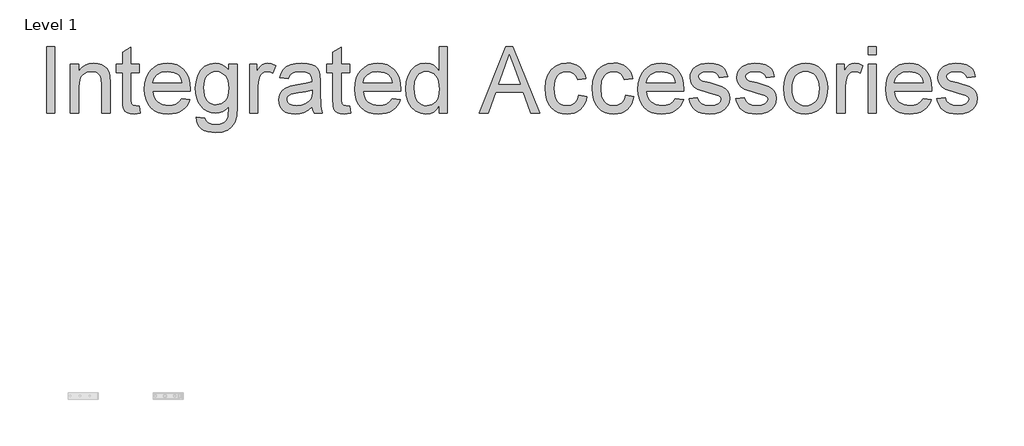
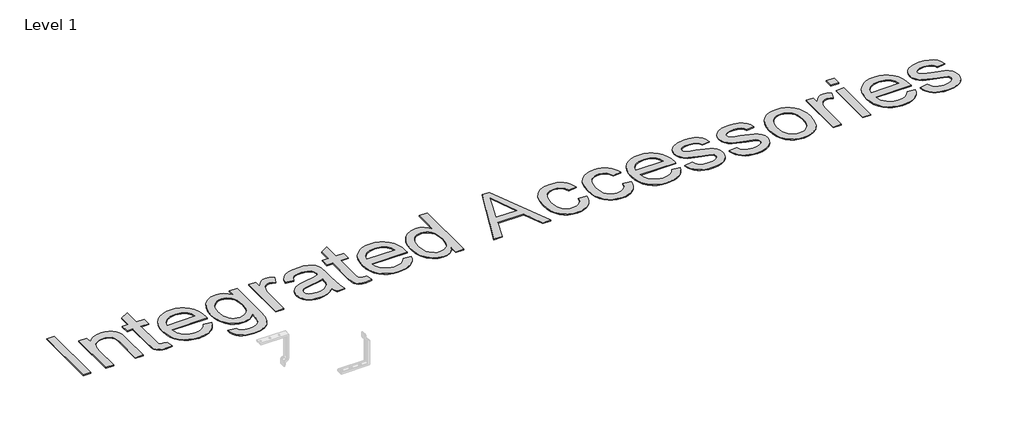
# One storey, part 3 of 6: 1 proxy.
"""IFC4 building model written with IfcOpenShell, lengths in millimetres."""

from ifc_helpers import new_model, si_unit, origin, origin_with_axes, place, context, project, spatial, polyline, outline, extrude, element, save

model = new_model("IFC4")

# Units and contexts
model_context = context("Model", 3, world=origin())
ifc_project = project(units=[si_unit("LENGTHUNIT", "METRE", prefix="MILLI")], contexts=[model_context])

# Site, building, storey
site = spatial("IfcSite", under=ifc_project)
building = spatial("IfcBuilding", under=site)
storey = spatial("IfcBuildingStorey", under=building, Name="Level 1", Elevation=0.0)

# Proxy
placement = place(None, origin())
element("IfcBuildingElementProxy", 1, Name="400mm Arial", ObjectType="400mm Arial", at=placement, inside=storey, context=model_context, shape_type="SweptSolid", body=[
    extrude(outline(polyline([(-11437.7764845, 9851.3054836), (-11437.7764845, 10243.0630593), (-11388.8067875, 10243.0630593), (-11388.8067875, 9851.3054836), (-11437.7764845, 9851.3054836)])), origin_with_axes(), (0.0, 0.0, 1.0), 5.0),
    extrude(outline(polyline([(-11296.9886057, 9851.3054836), (-11296.9886057, 10139.0024533), (-11248.0189088, 10139.0024533), (-11248.0189088, 10098.8319987), (-11231.006243, 10119.0846029), (-11210.5743065, 10133.5507487), (-11186.7230991, 10142.2304362), (-11159.4526209, 10145.1236654), (-11135.3144817, 10142.7923444), (-11113.2087762, 10135.7983813), (-11094.7734069, 10125.0145271), (-11081.6462762, 10111.3135328), (-11072.7394343, 10094.7312648), (-11066.9649315, 10075.3035896), (-11064.3825451, 10027.9598396), (-11064.3825451, 9851.3054836), (-11113.3522421, 9851.3054836), (-11113.3522421, 10021.3604078), (-11114.7629902, 10046.6821408), (-11118.9952345, 10064.6871124), (-11126.8021711, 10077.5870887), (-11138.9369959, 10087.5938358), (-11154.4910915, 10094.0139353), (-11172.5558406, 10096.1539684), (-11201.2370669, 10091.3478605), (-11225.6860489, 10076.9295366), (-11235.4566751, 10065.1593543), (-11242.4356938, 10049.0732393), (-11246.623105, 10028.6711914), (-11248.0189088, 10003.9532108), (-11248.0189088, 9851.3054836), (-11296.9886057, 9851.3054836)])), origin_with_axes(), (0.0, 0.0, 1.0), 5.0),
    extrude(outline(polyline([(-10892.9886057, 9892.1454457), (-10886.8673936, 9849.8708245), (-10923.4990224, 9845.1842715), (-10947.0035205, 9847.2167052), (-10964.5302724, 9853.3140063), (-10976.9161625, 9862.7110233), (-10984.9980754, 9874.6426048), (-10989.4455186, 9895.1343188), (-10990.9279997, 9930.2117336), (-10990.9279997, 10090.0327563), (-11027.6552724, 10090.0327563), (-11027.6552724, 10139.0024533), (-10990.9279997, 10139.0024533), (-10990.9279997, 10208.918173), (-10941.9583027, 10237.7069987), (-10941.9583027, 10139.0024533), (-10892.9886057, 10139.0024533), (-10892.9886057, 10090.0327563), (-10941.9583027, 10090.0327563), (-10941.9583027, 9931.6463927), (-10939.3759163, 9906.3963927), (-10931.0070716, 9897.4536843), (-10914.3172042, 9894.1539684), (-10892.9886057, 9892.1454457)])), origin_with_axes(), (0.0, 0.0, 1.0), 5.0),
    extrude(outline(polyline([(-10642.5927724, 9937.0024533), (-10594.5795148, 9930.8812411), (-10601.9411093, 9911.6508316), (-10611.8791124, 9894.7039211), (-10624.3935241, 9880.0405096), (-10639.4843444, 9867.6605972), (-10656.9961519, 9857.8272047), (-10676.7735252, 9850.8033529), (-10723.1249694, 9845.1842715), (-10753.5098534, 9847.6082475), (-10780.583066, 9854.8801758), (-10804.3446071, 9867.0000563), (-10824.7944769, 9883.9678889), (-10841.2392568, 9905.3114317), (-10852.9855281, 9930.5584429), (-10860.0332909, 9959.7089223), (-10862.3825451, 9992.7628699), (-10860.0093799, 10026.937645), (-10852.8898841, 10057.0595082), (-10841.0240579, 10083.1284594), (-10824.4119012, 10105.1444987), (-10804.0158311, 10122.6353841), (-10780.7982648, 10135.1288737), (-10754.7592023, 10142.6249675), (-10725.8986436, 10145.1236654), (-10697.9676244, 10142.6309452), (-10672.7086578, 10135.1527847), (-10650.1217438, 10122.6891839), (-10630.2068822, 10105.2401427), (-10613.9504014, 10083.2719253), (-10602.3386294, 10057.2507961), (-10595.3715662, 10027.1767549), (-10593.0492118, 9993.0498018), (-10593.3361436, 9979.8509381), (-10813.4128482, 9979.8509381), (-10810.5764076, 9960.3096858), (-10804.936404, 9943.1953983), (-10796.4928375, 9928.5080759), (-10785.245708, 9916.2477184), (-10756.8275025, 9899.6774059), (-10722.16853, 9894.1539684), (-10696.1055565, 9896.7124438), (-10674.1552724, 9904.3878699), (-10656.3176777, 9917.6584665), (-10642.5927724, 9937.0024533)]), holes=[polyline([(-10813.4128482, 10028.8206351), (-10642.0189088, 10028.8206351), (-10648.6422516, 10054.6923207), (-10661.6259163, 10073.199423), (-10674.9802014, 10083.2420366), (-10690.1756322, 10090.4153321), (-10726.0899315, 10096.1539684), (-10759.0990461, 10091.5750148), (-10786.3934353, 10077.838154), (-10805.3668018, 10056.4258671), (-10813.4128482, 10028.8206351)])]), origin_with_axes(), (0.0, 0.0, 1.0), 5.0),
    extrude(outline(polyline([(-10556.3219391, 9826.8206351), (-10507.3522421, 9820.699423), (-10501.9483595, 9805.3963927), (-10491.4753482, 9794.8755593), (-10470.8879902, 9786.6980025), (-10443.9403103, 9783.9721502), (-10415.1993065, 9787.0566673), (-10393.822886, 9796.3102184), (-10378.9980754, 9811.135029), (-10369.9119012, 9830.9333245), (-10366.5643633, 9888.0327563), (-10382.8596995, 9871.9645745), (-10401.0440035, 9860.4873018), (-10421.1172752, 9853.6009381), (-10443.0795148, 9851.3054836), (-10469.9285619, 9853.9775361), (-10493.5675593, 9861.9936938), (-10513.996507, 9875.3539566), (-10531.215405, 9894.0583245), (-10544.8775439, 9916.4987838), (-10554.6362146, 9941.0673207), (-10560.491417, 9967.7639353), (-10562.4431512, 9996.5886275), (-10558.9401919, 10036.125441), (-10548.4313141, 10072.4820934), (-10531.2871379, 10103.2913974), (-10507.8782838, 10126.1861654), (-10479.0057696, 10140.3892904), (-10445.4706133, 10145.1236654), (-10422.5698676, 10142.4456351), (-10401.785244, 10134.4115442), (-10383.1167426, 10121.0213927), (-10366.5643633, 10102.2751805), (-10366.5643633, 10139.0024533), (-10317.5946663, 10139.0024533), (-10317.5946663, 9890.6151427), (-10320.9422042, 9833.2646455), (-10330.9848179, 9795.4972449), (-10348.2844154, 9770.4504883), (-10373.402905, 9751.261923), (-10405.7903339, 9739.0673207), (-10444.8967497, 9735.0024533), (-10490.4591313, 9740.7291341), (-10509.6088413, 9747.8874852), (-10526.3375641, 9757.9091768), (-10539.8502594, 9770.8061642), (-10549.351887, 9786.5904031), (-10554.8424469, 9805.2618934), (-10556.3219391, 9826.8206351)]), holes=[polyline([(-10513.4734542, 9999.9361654), (-10508.248904, 9955.0193804), (-10501.7182163, 9937.8243934), (-10492.5752535, 9924.1383434), (-10481.4596344, 9913.6982097), (-10469.0109779, 9906.2409713), (-10455.229284, 9901.7666282), (-10440.1145527, 9900.2751805), (-10411.4333264, 9906.2051048), (-10387.7494959, 9923.9948775), (-10378.4810004, 9937.5464282), (-10371.8606464, 9954.4813832), (-10366.5643633, 9998.5015063), (-10372.0160679, 10040.9554599), (-10378.8306985, 10057.7260269), (-10388.3711815, 10071.525654), (-10412.4017213, 10089.9968898), (-10426.0847823, 10094.6146988), (-10440.8797042, 10096.1539684), (-10455.4265496, 10094.6386098), (-10468.843601, 10090.0925338), (-10492.2883216, 10071.9082298), (-10501.5568171, 10058.3178238), (-10508.1771711, 10041.7923444), (-10513.4734542, 9999.9361654)])]), origin_with_axes(), (0.0, 0.0, 1.0), 5.0),
    extrude(outline(polyline([(-10244.1401209, 9851.3054836), (-10244.1401209, 10139.0024533), (-10201.291636, 10139.0024533), (-10201.291636, 10096.4409002), (-10185.4625641, 10121.1170366), (-10170.8768633, 10135.6549154), (-10156.2433406, 10142.7564779), (-10140.2708027, 10145.1236654), (-10115.8815982, 10141.3457298), (-10091.1098179, 10130.011923), (-10107.4649315, 10086.1113548), (-10124.6808406, 10093.643315), (-10141.8967497, 10096.1539684), (-10156.5183169, 10093.738959), (-10169.5856701, 10086.4939305), (-10180.1423699, 10074.9688358), (-10187.2319769, 10059.7136275), (-10193.1858122, 10032.3594608), (-10195.1704239, 10002.5185518), (-10195.1704239, 9851.3054836), (-10244.1401209, 9851.3054836)])), origin_with_axes(), (0.0, 0.0, 1.0), 5.0),
    extrude(outline(polyline([(-9876.8673936, 9888.0327563), (-9900.2642923, 9867.97144), (-9924.3546095, 9854.8443093), (-9949.688298, 9847.5992809), (-9976.8153103, 9845.1842715), (-9998.6191396, 9846.6368638), (-10017.7389608, 9850.9946408), (-10034.1747741, 9858.2576024), (-10047.9265792, 9868.4257487), (-10058.7851552, 9880.8534831), (-10066.5412809, 9894.895209), (-10071.1949563, 9910.5509263), (-10072.7461815, 9927.8206351), (-10070.402905, 9948.1210612), (-10063.3730754, 9966.5564305), (-10052.5294438, 9982.3376805), (-10038.744761, 9994.6757487), (-10004.4564088, 10010.7439305), (-9962.0861436, 10018.1085139), (-9912.0165413, 10025.855673), (-9877.1543254, 10034.9418472), (-9876.8673936, 10045.8452563), (-9880.2388425, 10067.6998965), (-9890.3531891, 10081.9986654), (-9912.9729807, 10092.6151427), (-9944.4876588, 10096.1539684), (-9973.6590603, 10093.7987364), (-9994.0312194, 10086.7330404), (-10007.9235016, 10073.6656872), (-10017.6552724, 10053.3054836), (-10066.6249694, 10059.4266957), (-10058.1246143, 10086.2069987), (-10045.4398368, 10107.2486654), (-10027.3870432, 10123.3407582), (-10002.7826398, 10135.2723396), (-9972.6906654, 10142.660834), (-9938.1751588, 10145.1236654), (-9905.0704002, 10142.9477658), (-9878.8280944, 10136.4200669), (-9859.0417544, 10126.6046076), (-9845.3048936, 10114.5654268), (-9836.1948084, 10099.6808387), (-9830.2887951, 10081.3291578), (-9827.8976966, 10038.480673), (-9827.8976966, 9977.5554836), (-9825.4109542, 9892.4801995), (-9815.6552724, 9851.3054836), (-9864.6249694, 9851.3054836), (-9872.4677724, 9868.3301048), (-9876.8673936, 9888.0327563)]), holes=[polyline([(-9876.8673936, 9985.9721502), (-9909.7689088, 9977.8185044), (-9955.8692875, 9970.9560518), (-9998.0004429, 9963.0176048), (-10008.9636294, 9957.5898112), (-10017.0814088, 9950.105673), (-10022.1027156, 9941.1390536), (-10023.7764845, 9931.2638169), (-10020.1300593, 9916.7020271), (-10009.1907838, 9904.7704457), (-9991.1977677, 9896.8080877), (-9966.3901209, 9894.1539684), (-9940.0880375, 9897.0830641), (-9916.8465603, 9905.870351), (-9898.0047042, 9918.8181493), (-9884.9014845, 9934.228779), (-9879.0911152, 9950.105673), (-9877.1543254, 9972.103779), (-9876.8673936, 9985.9721502)])]), origin_with_axes(), (0.0, 0.0, 1.0), 5.0),
    extrude(outline(polyline([(-9656.5037572, 9892.1454457), (-9650.3825451, 9849.8708245), (-9687.0141739, 9845.1842715), (-9710.518672, 9847.2167052), (-9728.0454239, 9853.3140063), (-9740.4313141, 9862.7110233), (-9748.5132269, 9874.6426048), (-9752.9606701, 9895.1343188), (-9754.4431512, 9930.2117336), (-9754.4431512, 10090.0327563), (-9791.1704239, 10090.0327563), (-9791.1704239, 10139.0024533), (-9754.4431512, 10139.0024533), (-9754.4431512, 10208.918173), (-9705.4734542, 10237.7069987), (-9705.4734542, 10139.0024533), (-9656.5037572, 10139.0024533), (-9656.5037572, 10090.0327563), (-9705.4734542, 10090.0327563), (-9705.4734542, 9931.6463927), (-9702.8910679, 9906.3963927), (-9694.5222232, 9897.4536843), (-9677.8323557, 9894.1539684), (-9656.5037572, 9892.1454457)])), origin_with_axes(), (0.0, 0.0, 1.0), 5.0),
    extrude(outline(polyline([(-9406.1079239, 9937.0024533), (-9358.0946663, 9930.8812411), (-9365.4562608, 9911.6508316), (-9375.3942639, 9894.7039211), (-9387.9086756, 9880.0405096), (-9402.9994959, 9867.6605972), (-9420.5113034, 9857.8272047), (-9440.2886768, 9850.8033529), (-9486.6401209, 9845.1842715), (-9517.0250049, 9847.6082475), (-9544.0982175, 9854.8801758), (-9567.8597587, 9867.0000563), (-9588.3096285, 9883.9678889), (-9604.7544083, 9905.3114317), (-9616.5006796, 9930.5584429), (-9623.5484424, 9959.7089223), (-9625.8976966, 9992.7628699), (-9623.5245314, 10026.937645), (-9616.4050357, 10057.0595082), (-9604.5392094, 10083.1284594), (-9587.9270527, 10105.1444987), (-9567.5309826, 10122.6353841), (-9544.3134163, 10135.1288737), (-9518.2743538, 10142.6249675), (-9489.4137951, 10145.1236654), (-9461.4827759, 10142.6309452), (-9436.2238093, 10135.1527847), (-9413.6368953, 10122.6891839), (-9393.7220338, 10105.2401427), (-9377.4655529, 10083.2719253), (-9365.8537809, 10057.2507961), (-9358.8867177, 10027.1767549), (-9356.5643633, 9993.0498018), (-9356.8512951, 9979.8509381), (-9576.9279997, 9979.8509381), (-9574.0915591, 9960.3096858), (-9568.4515555, 9943.1953983), (-9560.007989, 9928.5080759), (-9548.7608595, 9916.2477184), (-9520.342654, 9899.6774059), (-9485.6836815, 9894.1539684), (-9459.620708, 9896.7124438), (-9437.6704239, 9904.3878699), (-9419.8328292, 9917.6584665), (-9406.1079239, 9937.0024533)]), holes=[polyline([(-9576.9279997, 10028.8206351), (-9405.5340603, 10028.8206351), (-9412.1574031, 10054.6923207), (-9425.1410679, 10073.199423), (-9438.4953529, 10083.2420366), (-9453.6907838, 10090.4153321), (-9489.605083, 10096.1539684), (-9522.6141976, 10091.5750148), (-9549.9085868, 10077.838154), (-9568.8819533, 10056.4258671), (-9576.9279997, 10028.8206351)])]), origin_with_axes(), (0.0, 0.0, 1.0), 5.0),
    extrude(outline(polyline([(-9130.0795148, 9851.3054836), (-9130.0795148, 9897.5015063), (-9144.7309708, 9874.6127161), (-9162.4788993, 9858.2635802), (-9183.3233003, 9848.4540986), (-9207.2641739, 9845.1842715), (-9238.9223179, 9849.9186465), (-9267.9024315, 9864.1217715), (-9292.4351019, 9886.8013406), (-9310.7509163, 9916.965048), (-9322.1564561, 9953.3934334), (-9325.9583027, 9994.8670366), (-9322.4553434, 10035.8265536), (-9311.9464656, 10072.8168472), (-9294.4436247, 10103.7337506), (-9269.9587762, 10126.4730972), (-9240.3450214, 10140.4610233), (-9207.4554618, 10145.1236654), (-9183.496655, 10141.788083), (-9162.3115224, 10131.7813358), (-9144.3543728, 10116.4424391), (-9130.0795148, 10097.1104078), (-9130.0795148, 10243.0630593), (-9081.1098179, 10243.0630593), (-9081.1098179, 9851.3054836), (-9130.0795148, 9851.3054836)]), holes=[polyline([(-9276.9886057, 9995.0583245), (-9271.4651682, 9950.763225), (-9264.5608714, 9933.4128167), (-9254.8948557, 9919.2605025), (-9230.816494, 9900.4306019), (-9217.2888543, 9895.7231268), (-9202.7689088, 9894.1539684), (-9174.733279, 9900.1436701), (-9151.2646474, 9918.1127752), (-9141.9961519, 9931.6732925), (-9135.375798, 9948.3960375), (-9130.0795148, 9991.3282108), (-9135.4714419, 10038.2654741), (-9142.2113508, 10056.3362009), (-9151.6472232, 10070.8083245), (-9163.0557518, 10081.8970437), (-9175.7136294, 10089.8175574), (-9189.620856, 10094.5698657), (-9204.7774315, 10096.1539684), (-9219.5843089, 10094.632632), (-9233.1119485, 10090.0686228), (-9245.3603505, 10082.4619407), (-9256.3295148, 10071.8125858), (-9265.3678671, 10057.887426), (-9271.823833, 10040.4533292), (-9276.9886057, 9995.0583245)])]), origin_with_axes(), (0.0, 0.0, 1.0), 5.0),
    extrude(outline(polyline([(-8894.1259163, 9851.3054836), (-8737.7480754, 10243.0630593), (-8696.0473179, 10243.0630593), (-8539.6694769, 9851.3054836), (-8591.4128482, 9851.3054836), (-8636.2698557, 9973.729726), (-8797.6211815, 9973.729726), (-8842.3825451, 9851.3054836), (-8894.1259163, 9851.3054836)]), holes=[polyline([(-8779.6401209, 10022.699423), (-8654.1552724, 10022.699423), (-8689.447886, 10119.0128699), (-8716.8976966, 10194.0933624), (-8741.2869012, 10127.4295366), (-8779.6401209, 10022.699423)])]), origin_with_axes(), (0.0, 0.0, 1.0), 5.0),
    extrude(outline(polyline([(-8309.8370906, 9955.3660896), (-8260.8673936, 9949.2448775), (-8266.1935655, 9926.1378995), (-8274.520566, 9905.6910186), (-8285.848395, 9887.9042348), (-8300.1770527, 9872.777548), (-8316.9027866, 9860.7054895), (-8335.4218444, 9852.0825906), (-8355.734226, 9846.9088512), (-8377.8399315, 9845.1842715), (-8405.3046865, 9847.5903143), (-8429.930012, 9854.8084429), (-8451.715908, 9866.8386571), (-8470.6623747, 9883.6809571), (-8485.9982826, 9905.0185222), (-8496.9525025, 9930.5345319), (-8503.5250345, 9960.2289862), (-8505.7158785, 9994.1018851), (-8501.9738093, 10037.679655), (-8490.7476019, 10075.4470555), (-8471.8579239, 10105.9455167), (-8445.1254429, 10127.7164684), (-8413.1445006, 10140.7718661), (-8378.5094391, 10145.1236654), (-8356.7833205, 10143.6292288), (-8337.1314798, 10139.1459192), (-8319.553917, 10131.6737364), (-8304.0506322, 10121.2126805), (-8290.8846462, 10108.0018614), (-8280.3189798, 10092.2803889), (-8272.353633, 10074.0482629), (-8266.9886057, 10053.3054836), (-8315.9583027, 10047.1842715), (-8324.8412336, 10068.5487364), (-8338.6737383, 10083.8637222), (-8356.6906654, 10093.0814069), (-8378.1268633, 10096.1539684), (-8394.7659199, 10094.6415986), (-8409.7730518, 10090.1044893), (-8423.1482589, 10082.5426403), (-8434.8915413, 10071.9560518), (-8444.4529464, 10058.099636), (-8451.2825214, 10040.7283055), (-8456.7461815, 9995.4409002), (-8451.4020764, 9949.5437648), (-8444.721945, 9932.0558683), (-8435.369761, 9918.2084192), (-8423.8596107, 9907.684597), (-8410.7055802, 9900.1675811), (-8395.9076694, 9895.6573716), (-8379.4658785, 9894.1539684), (-8354.108279, 9897.907993), (-8333.3176777, 9909.1700669), (-8318.1939798, 9928.2271218), (-8309.8370906, 9955.3660896)])), origin_with_axes(), (0.0, 0.0, 1.0), 5.0),
    extrude(outline(polyline([(-8034.3825451, 9955.3660896), (-7985.4128482, 9949.2448775), (-7990.73902, 9926.1378995), (-7999.0660205, 9905.6910186), (-8010.3938496, 9887.9042348), (-8024.7225072, 9872.777548), (-8041.4482411, 9860.7054895), (-8059.9672989, 9852.0825906), (-8080.2796805, 9846.9088512), (-8102.385386, 9845.1842715), (-8129.850141, 9847.5903143), (-8154.4754665, 9854.8084429), (-8176.2613626, 9866.8386571), (-8195.2078292, 9883.6809571), (-8210.5437371, 9905.0185222), (-8221.4979571, 9930.5345319), (-8228.070489, 9960.2289862), (-8230.261333, 9994.1018851), (-8226.5192639, 10037.679655), (-8215.2930565, 10075.4470555), (-8196.4033785, 10105.9455167), (-8169.6708974, 10127.7164684), (-8137.6899552, 10140.7718661), (-8103.0548936, 10145.1236654), (-8081.328775, 10143.6292288), (-8061.6769343, 10139.1459192), (-8044.0993716, 10131.6737364), (-8028.5960868, 10121.2126805), (-8015.4301008, 10108.0018614), (-8004.8644343, 10092.2803889), (-7996.8990875, 10074.0482629), (-7991.5340603, 10053.3054836), (-8040.5037572, 10047.1842715), (-8049.3866881, 10068.5487364), (-8063.2191929, 10083.8637222), (-8081.2361199, 10093.0814069), (-8102.6723179, 10096.1539684), (-8119.3113744, 10094.6415986), (-8134.3185063, 10090.1044893), (-8147.6937134, 10082.5426403), (-8159.4369959, 10071.9560518), (-8168.9984009, 10058.099636), (-8175.827976, 10040.7283055), (-8181.291636, 9995.4409002), (-8175.9475309, 9949.5437648), (-8169.2673995, 9932.0558683), (-8159.9152156, 9918.2084192), (-8148.4050652, 9907.684597), (-8135.2510347, 9900.1675811), (-8120.453124, 9895.6573716), (-8104.011333, 9894.1539684), (-8078.6537336, 9897.907993), (-8057.8631322, 9909.1700669), (-8042.7394343, 9928.2271218), (-8034.3825451, 9955.3660896)])), origin_with_axes(), (0.0, 0.0, 1.0), 5.0),
    extrude(outline(polyline([(-7741.1382269, 9937.0024533), (-7693.1249694, 9930.8812411), (-7700.4865638, 9911.6508316), (-7710.4245669, 9894.7039211), (-7722.9389786, 9880.0405096), (-7738.0297989, 9867.6605972), (-7755.5416064, 9857.8272047), (-7775.3189798, 9850.8033529), (-7821.6704239, 9845.1842715), (-7852.0553079, 9847.6082475), (-7879.1285205, 9854.8801758), (-7902.8900617, 9867.0000563), (-7923.3399315, 9883.9678889), (-7939.7847113, 9905.3114317), (-7951.5309826, 9930.5584429), (-7958.5787454, 9959.7089223), (-7960.9279997, 9992.7628699), (-7958.5548344, 10026.937645), (-7951.4353387, 10057.0595082), (-7939.5695125, 10083.1284594), (-7922.9573557, 10105.1444987), (-7902.5612857, 10122.6353841), (-7879.3437194, 10135.1288737), (-7853.3046569, 10142.6249675), (-7824.4440982, 10145.1236654), (-7796.513079, 10142.6309452), (-7771.2541124, 10135.1527847), (-7748.6671983, 10122.6891839), (-7728.7523368, 10105.2401427), (-7712.495856, 10083.2719253), (-7700.8840839, 10057.2507961), (-7693.9170207, 10027.1767549), (-7691.5946663, 9993.0498018), (-7691.8815982, 9979.8509381), (-7911.9583027, 9979.8509381), (-7909.1218621, 9960.3096858), (-7903.4818586, 9943.1953983), (-7895.038292, 9928.5080759), (-7883.7911625, 9916.2477184), (-7855.3729571, 9899.6774059), (-7820.7139845, 9894.1539684), (-7794.651011, 9896.7124438), (-7772.7007269, 9904.3878699), (-7754.8631322, 9917.6584665), (-7741.1382269, 9937.0024533)]), holes=[polyline([(-7911.9583027, 10028.8206351), (-7740.5643633, 10028.8206351), (-7747.1877061, 10054.6923207), (-7760.1713709, 10073.199423), (-7773.5256559, 10083.2420366), (-7788.7210868, 10090.4153321), (-7824.635386, 10096.1539684), (-7857.6445006, 10091.5750148), (-7884.9388898, 10077.838154), (-7903.9122563, 10056.4258671), (-7911.9583027, 10028.8206351)])]), origin_with_axes(), (0.0, 0.0, 1.0), 5.0),
    extrude(outline(polyline([(-7660.9886057, 9937.0024533), (-7612.0189088, 9943.1236654), (-7604.2956607, 9922.1776427), (-7589.3512951, 9906.7789684), (-7567.0901682, 9897.3102184), (-7537.416636, 9894.1539684), (-7508.1017686, 9897.0471976), (-7487.4904997, 9905.7268851), (-7475.2958974, 9918.3040631), (-7471.23103, 9932.8897639), (-7475.3198084, 9945.371298), (-7487.5861436, 9954.8878699), (-7537.9904997, 9968.8518851), (-7611.7319769, 9992.8106919), (-7630.3945006, 10004.8498728), (-7643.9161625, 10020.7865442), (-7652.1295858, 10039.6044893), (-7654.8673936, 10060.2874911), (-7652.667583, 10079.2608576), (-7646.0681512, 10096.775654), (-7635.6668728, 10112.1384618), (-7622.0615224, 10124.6558624), (-7590.9294201, 10139.1459192), (-7548.7982648, 10145.1236654), (-7516.924922, 10142.7206114), (-7489.2120906, 10135.5114495), (-7466.9270527, 10124.2015536), (-7451.3370906, 10109.496298), (-7441.0075451, 10090.3077326), (-7434.5037572, 10065.5479078), (-7483.4734542, 10059.4266957), (-7489.6544438, 10074.8373254), (-7501.8849125, 10086.4461086), (-7520.2844154, 10093.7270035), (-7544.9725072, 10096.1539684), (-7573.0918254, 10093.8346029), (-7591.8380375, 10086.8765063), (-7602.3827819, 10076.8338927), (-7605.8976966, 10065.260976), (-7600.0634163, 10051.010029), (-7581.7954239, 10040.2022639), (-7539.6164466, 10029.7770745), (-7467.7400262, 10006.7268851), (-7448.7547042, 9995.7039211), (-7434.3602913, 9980.6160896), (-7425.2860726, 9961.4155688), (-7422.261333, 9938.0545366), (-7425.8121143, 9913.9044419), (-7436.464458, 9891.1890063), (-7453.8118775, 9871.6895982), (-7477.447886, 9857.1875858), (-7505.9976019, 9848.1851), (-7538.0861436, 9845.1842715), (-7564.4420267, 9846.630886), (-7587.4623273, 9850.9707298), (-7607.1470456, 9858.2038027), (-7623.4961815, 9868.3301048), (-7636.8504665, 9881.3018141), (-7647.5506322, 9897.0711086), (-7655.5966786, 9915.6379883), (-7660.9886057, 9937.0024533)])), origin_with_axes(), (0.0, 0.0, 1.0), 5.0),
    extrude(outline(polyline([(-7385.5340603, 9937.0024533), (-7336.5643633, 9943.1236654), (-7328.8411152, 9922.1776427), (-7313.8967497, 9906.7789684), (-7291.6356228, 9897.3102184), (-7261.9620906, 9894.1539684), (-7232.6472232, 9897.0471976), (-7212.0359542, 9905.7268851), (-7199.8413519, 9918.3040631), (-7195.7764845, 9932.8897639), (-7199.8652629, 9945.371298), (-7212.1315982, 9954.8878699), (-7262.5359542, 9968.8518851), (-7336.2774315, 9992.8106919), (-7354.9399552, 10004.8498728), (-7368.4616171, 10020.7865442), (-7376.6750404, 10039.6044893), (-7379.4128482, 10060.2874911), (-7377.2130375, 10079.2608576), (-7370.6136057, 10096.775654), (-7360.2123273, 10112.1384618), (-7346.6069769, 10124.6558624), (-7315.4748747, 10139.1459192), (-7273.3437194, 10145.1236654), (-7241.4703766, 10142.7206114), (-7213.7575451, 10135.5114495), (-7191.4725072, 10124.2015536), (-7175.8825451, 10109.496298), (-7165.5529997, 10090.3077326), (-7159.0492118, 10065.5479078), (-7208.0189088, 10059.4266957), (-7214.1998983, 10074.8373254), (-7226.4303671, 10086.4461086), (-7244.8298699, 10093.7270035), (-7269.5179618, 10096.1539684), (-7297.63728, 10093.8346029), (-7316.3834921, 10086.8765063), (-7326.9282364, 10076.8338927), (-7330.4431512, 10065.260976), (-7324.6088709, 10051.010029), (-7306.3408785, 10040.2022639), (-7264.1619012, 10029.7770745), (-7192.2854807, 10006.7268851), (-7173.3001588, 9995.7039211), (-7158.9057459, 9980.6160896), (-7149.8315271, 9961.4155688), (-7146.8067875, 9938.0545366), (-7150.3575688, 9913.9044419), (-7161.0099125, 9891.1890063), (-7178.3573321, 9871.6895982), (-7201.9933406, 9857.1875858), (-7230.5430565, 9848.1851), (-7262.6315982, 9845.1842715), (-7288.9874812, 9846.630886), (-7312.0077819, 9850.9707298), (-7331.6925001, 9858.2038027), (-7348.041636, 9868.3301048), (-7361.3959211, 9881.3018141), (-7372.0960868, 9897.0711086), (-7380.1421332, 9915.6379883), (-7385.5340603, 9937.0024533)])), origin_with_axes(), (0.0, 0.0, 1.0), 5.0),
    extrude(outline(polyline([(-7103.9583027, 9995.1539684), (-7101.3101611, 10032.4132606), (-7093.3657364, 10064.5197355), (-7080.1250286, 10091.4733931), (-7061.5880375, 10113.2742336), (-7042.9255139, 10127.20836), (-7022.3262004, 10137.1613074), (-6999.7900972, 10143.1330759), (-6975.3172042, 10145.1236654), (-6948.3007802, 10142.6996893), (-6923.8727203, 10135.427761), (-6902.0330245, 10123.3078806), (-6882.7816929, 10106.340048), (-6867.0691869, 10085.0981268), (-6855.8459684, 10060.1559807), (-6849.1120373, 10031.5136098), (-6846.8673936, 9999.1710139), (-6850.8366171, 9949.6991862), (-6862.7442875, 9912.0393851), (-6882.2436957, 9883.8363785), (-6908.9881322, 9862.7349343), (-6940.7538756, 9849.5719372), (-6975.3172042, 9845.1842715), (-7002.7281595, 9847.5992809), (-7027.3833737, 9854.8443093), (-7049.282847, 9866.9193567), (-7068.4265792, 9883.824423), (-7083.9717082, 9905.2725764), (-7095.0753718, 9930.9768851), (-7101.73757, 9960.9373491), (-7103.9583027, 9995.1539684)]), holes=[polyline([(-7054.9886057, 9995.2496124), (-7053.5718799, 9971.4970378), (-7049.3217023, 9950.9306019), (-7042.2380731, 9933.5503048), (-7032.3209921, 9919.3561465), (-7020.2579002, 9908.3301936), (-7006.7362383, 9900.4545129), (-6991.7560063, 9895.7291045), (-6975.3172042, 9894.1539684), (-6958.9620906, 9895.7380712), (-6944.041636, 9900.4903794), (-6930.5558406, 9908.4108931), (-6918.5047042, 9919.4996124), (-6908.5876232, 9933.8342478), (-6901.503994, 9951.4925101), (-6897.2538164, 9972.4743993), (-6895.8370906, 9996.7799154), (-6897.262783, 10019.7792939), (-6901.5398605, 10039.8077326), (-6908.6683228, 10056.8652314), (-6918.6481701, 10070.9517904), (-6930.7441396, 10081.9777433), (-6944.2209684, 10089.8534239), (-6959.0786566, 10094.5788323), (-6975.3172042, 10096.1539684), (-6991.7560063, 10094.58481), (-7006.7362383, 10089.8773349), (-7020.2579002, 10082.031543), (-7032.3209921, 10071.0474343), (-7042.2380731, 10056.8951202), (-7049.3217023, 10039.5447118), (-7053.5718799, 10018.9962092), (-7054.9886057, 9995.2496124)])]), origin_with_axes(), (0.0, 0.0, 1.0), 5.0),
    extrude(outline(polyline([(-6791.7764845, 9851.3054836), (-6791.7764845, 10139.0024533), (-6748.9279997, 10139.0024533), (-6748.9279997, 10096.4409002), (-6733.0989277, 10121.1170366), (-6718.5132269, 10135.6549154), (-6703.8797042, 10142.7564779), (-6687.9071663, 10145.1236654), (-6663.5179618, 10141.3457298), (-6638.7461815, 10130.011923), (-6655.1012951, 10086.1113548), (-6672.3172042, 10093.643315), (-6689.5331133, 10096.1539684), (-6704.1546805, 10093.738959), (-6717.2220338, 10086.4939305), (-6727.7787336, 10074.9688358), (-6734.8683406, 10059.7136275), (-6740.8221758, 10032.3594608), (-6742.8067875, 10002.5185518), (-6742.8067875, 9851.3054836), (-6791.7764845, 9851.3054836)])), origin_with_axes(), (0.0, 0.0, 1.0), 5.0),
    extrude(outline(polyline([(-6608.1401209, 9851.3054836), (-6608.1401209, 10139.0024533), (-6559.1704239, 10139.0024533), (-6559.1704239, 9851.3054836), (-6608.1401209, 9851.3054836)])), origin_with_axes(), (0.0, 0.0, 1.0), 5.0),
    extrude(outline(polyline([(-6608.1401209, 10194.0933624), (-6608.1401209, 10243.0630593), (-6559.1704239, 10243.0630593), (-6559.1704239, 10194.0933624), (-6608.1401209, 10194.0933624)])), origin_with_axes(), (0.0, 0.0, 1.0), 5.0),
    extrude(outline(polyline([(-6284.2897421, 9937.0024533), (-6236.2764845, 9930.8812411), (-6243.638079, 9911.6508316), (-6253.5760821, 9894.7039211), (-6266.0904938, 9880.0405096), (-6281.1813141, 9867.6605972), (-6298.6931216, 9857.8272047), (-6318.4704949, 9850.8033529), (-6364.8219391, 9845.1842715), (-6395.2068231, 9847.6082475), (-6422.2800357, 9854.8801758), (-6446.0415768, 9867.0000563), (-6466.4914466, 9883.9678889), (-6482.9362265, 9905.3114317), (-6494.6824978, 9930.5584429), (-6501.7302606, 9959.7089223), (-6504.0795148, 9992.7628699), (-6501.7063496, 10026.937645), (-6494.5868538, 10057.0595082), (-6482.7210276, 10083.1284594), (-6466.1088709, 10105.1444987), (-6445.7128008, 10122.6353841), (-6422.4952345, 10135.1288737), (-6396.456172, 10142.6249675), (-6367.5956133, 10145.1236654), (-6339.6645941, 10142.6309452), (-6314.4056275, 10135.1527847), (-6291.8187134, 10122.6891839), (-6271.9038519, 10105.2401427), (-6255.6473711, 10083.2719253), (-6244.0355991, 10057.2507961), (-6237.0685359, 10027.1767549), (-6234.7461815, 9993.0498018), (-6235.0331133, 9979.8509381), (-6455.1098179, 9979.8509381), (-6452.2733773, 9960.3096858), (-6446.6333737, 9943.1953983), (-6438.1898072, 9928.5080759), (-6426.9426777, 9916.2477184), (-6398.5244722, 9899.6774059), (-6363.8654997, 9894.1539684), (-6337.8025262, 9896.7124438), (-6315.8522421, 9904.3878699), (-6298.0146474, 9917.6584665), (-6284.2897421, 9937.0024533)]), holes=[polyline([(-6455.1098179, 10028.8206351), (-6283.7158785, 10028.8206351), (-6290.3392213, 10054.6923207), (-6303.322886, 10073.199423), (-6316.6771711, 10083.2420366), (-6331.8726019, 10090.4153321), (-6367.7869012, 10096.1539684), (-6400.7960158, 10091.5750148), (-6428.090405, 10077.838154), (-6447.0637714, 10056.4258671), (-6455.1098179, 10028.8206351)])]), origin_with_axes(), (0.0, 0.0, 1.0), 5.0),
    extrude(outline(polyline([(-6204.1401209, 9937.0024533), (-6155.1704239, 9943.1236654), (-6147.4471758, 9922.1776427), (-6132.5028103, 9906.7789684), (-6110.2416834, 9897.3102184), (-6080.5681512, 9894.1539684), (-6051.2532838, 9897.0471976), (-6030.6420148, 9905.7268851), (-6018.4474125, 9918.3040631), (-6014.3825451, 9932.8897639), (-6018.4713235, 9945.371298), (-6030.7376588, 9954.8878699), (-6081.1420148, 9968.8518851), (-6154.8834921, 9992.8106919), (-6173.5460158, 10004.8498728), (-6187.0676777, 10020.7865442), (-6195.281101, 10039.6044893), (-6198.0189088, 10060.2874911), (-6195.8190982, 10079.2608576), (-6189.2196663, 10096.775654), (-6178.8183879, 10112.1384618), (-6165.2130375, 10124.6558624), (-6134.0809353, 10139.1459192), (-6091.94978, 10145.1236654), (-6060.0764372, 10142.7206114), (-6032.3636057, 10135.5114495), (-6010.0785679, 10124.2015536), (-5994.4886057, 10109.496298), (-5984.1590603, 10090.3077326), (-5977.6552724, 10065.5479078), (-6026.6249694, 10059.4266957), (-6032.8059589, 10074.8373254), (-6045.0364277, 10086.4461086), (-6063.4359305, 10093.7270035), (-6088.1240224, 10096.1539684), (-6116.2433406, 10093.8346029), (-6134.9895527, 10086.8765063), (-6145.534297, 10076.8338927), (-6149.0492118, 10065.260976), (-6143.2149315, 10051.010029), (-6124.9469391, 10040.2022639), (-6082.7679618, 10029.7770745), (-6010.8915413, 10006.7268851), (-5991.9062194, 9995.7039211), (-5977.5118065, 9980.6160896), (-5968.4375877, 9961.4155688), (-5965.4128482, 9938.0545366), (-5968.9636294, 9913.9044419), (-5979.6159732, 9891.1890063), (-5996.9633927, 9871.6895982), (-6020.5994012, 9857.1875858), (-6049.1491171, 9848.1851), (-6081.2376588, 9845.1842715), (-6107.5935418, 9846.630886), (-6130.6138425, 9850.9707298), (-6150.2985607, 9858.2038027), (-6166.6476966, 9868.3301048), (-6180.0019817, 9881.3018141), (-6190.7021474, 9897.0711086), (-6198.7481938, 9915.6379883), (-6204.1401209, 9937.0024533)])), origin_with_axes(), (0.0, 0.0, 1.0), 5.0),
])

save(model, "model.ifc")
